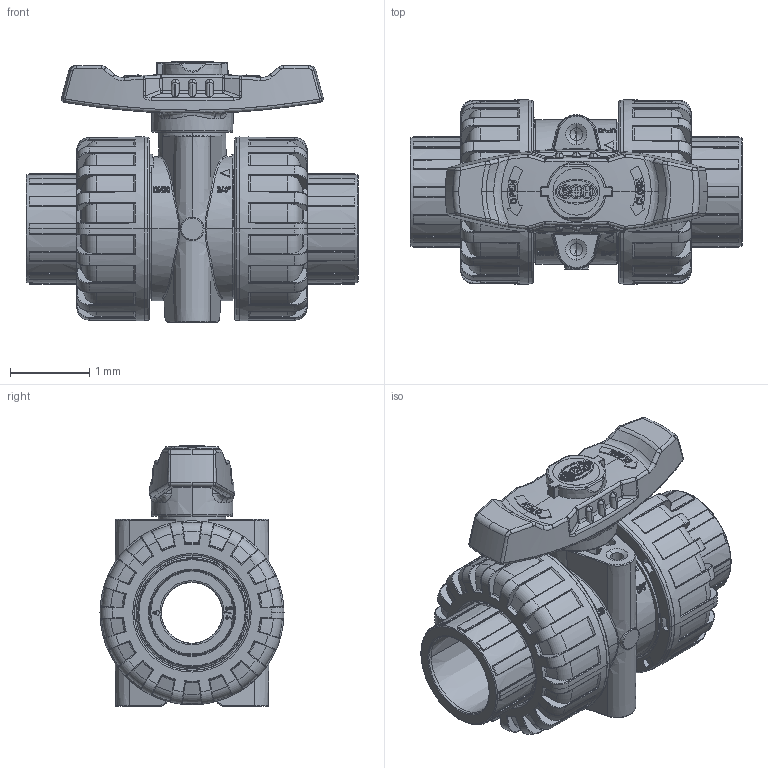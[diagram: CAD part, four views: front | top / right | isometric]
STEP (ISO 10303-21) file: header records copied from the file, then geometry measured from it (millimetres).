
FILE_DESCRIPTION(('Open CASCADE Model'),'2;1');
FILE_NAME('Open CASCADE Shape Model','2022-07-14T13:28:07',('Author'),( 'Open CASCADE'),'Open CASCADE STEP processor 7.3','Open CASCADE 7.3' ,'Unknown');
FILE_SCHEMA(('AUTOMOTIVE_DESIGN { 1 0 10303 214 1 1 1 1 }'));
Length unit declared in the file: millimetre
Products named in the file (19): Open CASCADE STEP translator 7.3 1; Open CASCADE STEP translator 7.3 1.1; Open CASCADE STEP translator 7.3 1.2; Open CASCADE STEP translator 7.3 1.3; Open CASCADE STEP translator 7.3 1.4; Open CASCADE STEP translator 7.3 1.5; Open CASCADE STEP translator 7.3 1.6; Open CASCADE STEP translator 7.3 1.7; Open CASCADE STEP translator 7.3 1.8; Open CASCADE STEP translator 7.3 1.9; Open CASCADE STEP translator 7.3 1.10; Open CASCADE STEP translator 7.3 1.11; Open CASCADE STEP translator 7.3 1.12; Open CASCADE STEP translator 7.3 1.13; Open CASCADE STEP translator 7.3 1.14; Open CASCADE STEP translator 7.3 1.15; Open CASCADE STEP translator 7.3 1.16; Open CASCADE STEP translator 7.3 1.17; Open CASCADE STEP translator 7.3 1.18
Assembly tree (18 placements, depth 2):
  Open CASCADE STEP translator 7.3 1
    Open CASCADE STEP translator 7.3 1.1
    Open CASCADE STEP translator 7.3 1.2
    Open CASCADE STEP translator 7.3 1.3
    Open CASCADE STEP translator 7.3 1.4
    Open CASCADE STEP translator 7.3 1.5
    Open CASCADE STEP translator 7.3 1.6
    Open CASCADE STEP translator 7.3 1.7
    Open CASCADE STEP translator 7.3 1.8
    Open CASCADE STEP translator 7.3 1.9
    Open CASCADE STEP translator 7.3 1.10
    Open CASCADE STEP translator 7.3 1.11
    Open CASCADE STEP translator 7.3 1.12
    Open CASCADE STEP translator 7.3 1.13
    Open CASCADE STEP translator 7.3 1.14
    Open CASCADE STEP translator 7.3 1.15
    Open CASCADE STEP translator 7.3 1.16
    Open CASCADE STEP translator 7.3 1.17
    Open CASCADE STEP translator 7.3 1.18
Bounding box: 4.19 x 2.33 x 3.29 mm (x, y, z)
Volume: 10.4 mm3; surface area: 144.2 mm2
Topology: 18 solids, 18 shells, 2903 faces, 7292 edges, 4490 vertices
Faces by surface type: bspline 806, plane 738, cylinder 418, cone 413, torus 402, sphere 82, revolution 44
Entity records: 355484 total; most frequent: CARTESIAN_POINT 230260, DIRECTION 17083, ORIENTED_EDGE 14444, PCURVE 14444, DEFINITIONAL_REPRESENTATION 14444, B_SPLINE_CURVE_WITH_KNOTS 10455, LINE 7761, VECTOR 7761
